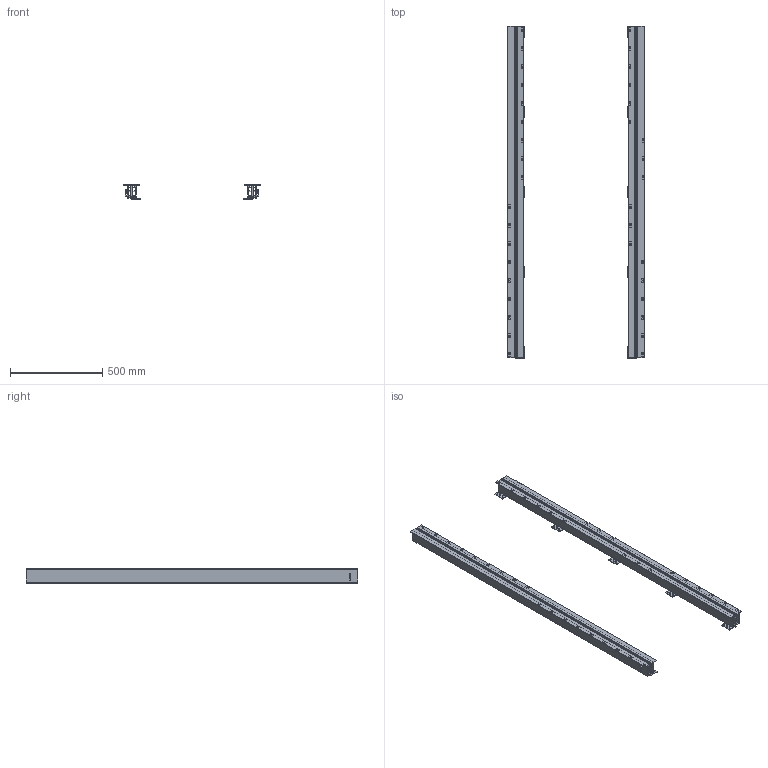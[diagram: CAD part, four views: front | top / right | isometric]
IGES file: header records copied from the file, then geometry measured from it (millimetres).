
Start section: Data from Parasolid IGES Translator 15.0.47, Copyright(c) 2006 Siemens P LM Software. All Rights Reserved.
Global section: file name: 9133046.igs; native system:  By UGS Corp.; preprocessor: XPlus GENERIC/IGES 3.0; author: Noname; organization: Noname; date: 20140612.120009; units: millimetre
Bounding box: 741 x 1800 x 81 mm (x, y, z)
Surface area: 2755857.6 mm2 (no closed solid volume)
Topology: 0 solids, 0 shells, 421 faces, 2244 edges, 2076 vertices
Faces by surface type: extrusion 327, revolution 94
